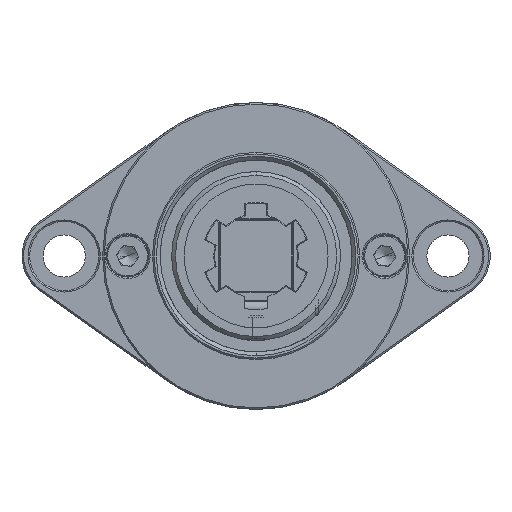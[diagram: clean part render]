
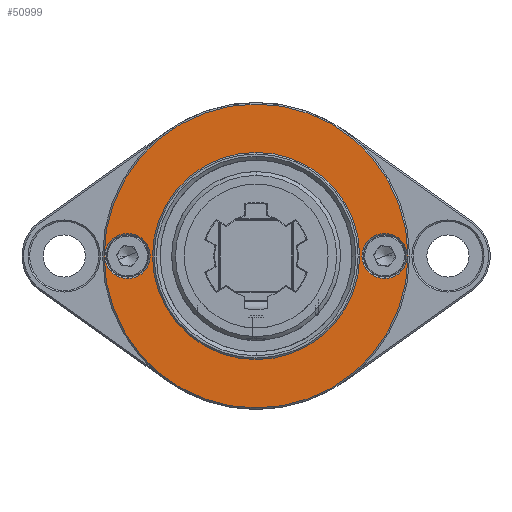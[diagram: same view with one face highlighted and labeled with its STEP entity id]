
A CAD part, front view. The second image highlights one B-rep face of the part: STEP entity #50999.
In plain terms, the highlighted planar face has unit normal (0, -1, 0).
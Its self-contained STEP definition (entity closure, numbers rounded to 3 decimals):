
#1436 = CARTESIAN_POINT ( 'NONE',  ( 0., -455.185, 57.652 ) ) ;
#2019 = VERTEX_POINT ( 'NONE', #4582 ) ;
#3446 = DIRECTION ( 'NONE',  ( 0., 0., 1. ) ) ;
#4144 = DIRECTION ( 'NONE',  ( 0., -1., 0. ) ) ;
#4455 = CARTESIAN_POINT ( 'NONE',  ( 16.75, -455.185, 71.152 ) ) ;
#4488 = DIRECTION ( 'NONE',  ( 0., 0., 1. ) ) ;
#4519 = CARTESIAN_POINT ( 'NONE',  ( 16.75, -455.185, 71.152 ) ) ;
#4582 = CARTESIAN_POINT ( 'NONE',  ( 0., -455.185, 90.952 ) ) ;
#5438 = CIRCLE ( 'NONE', #15553, 13.5 ) ;
#5451 = ORIENTED_EDGE ( 'NONE', *, *, #13354, .T. ) ;
#6465 = AXIS2_PLACEMENT_3D ( 'NONE', #31706, #16635, #4488 ) ;
#6834 = VERTEX_POINT ( 'NONE', #26416 ) ;
#8087 = AXIS2_PLACEMENT_3D ( 'NONE', #4455, #28379, #12111 ) ;
#8868 = DIRECTION ( 'NONE',  ( 0., 0., 1. ) ) ;
#9957 = FACE_BOUND ( 'NONE', #19332, .T. ) ;
#10010 = EDGE_CURVE ( 'NONE', #6834, #24139, #44836, .T. ) ;
#10215 = CIRCLE ( 'NONE', #38325, 19.8 ) ;
#11664 = DIRECTION ( 'NONE',  ( 0., 1., 0. ) ) ;
#12111 = DIRECTION ( 'NONE',  ( 0., 0., 1. ) ) ;
#12493 = CARTESIAN_POINT ( 'NONE',  ( 0., -455.185, 84.652 ) ) ;
#13354 = EDGE_CURVE ( 'NONE', #2019, #31863, #10215, .T. ) ;
#13685 = FACE_OUTER_BOUND ( 'NONE', #27711, .T. ) ;
#13836 = ORIENTED_EDGE ( 'NONE', *, *, #46820, .T. ) ;
#15553 = AXIS2_PLACEMENT_3D ( 'NONE', #50943, #23110, #3446 ) ;
#16168 = CARTESIAN_POINT ( 'NONE',  ( -16.75, -455.185, 71.152 ) ) ;
#16490 = DIRECTION ( 'NONE',  ( 0., 0., 1. ) ) ;
#16635 = DIRECTION ( 'NONE',  ( 0., 1., 0. ) ) ;
#17105 = VERTEX_POINT ( 'NONE', #42816 ) ;
#17565 = CIRCLE ( 'NONE', #34189, 2.95 ) ;
#19332 = EDGE_LOOP ( 'NONE', ( #41330, #39339 ) ) ;
#20800 = CIRCLE ( 'NONE', #6465, 2.95 ) ;
#21006 = DIRECTION ( 'NONE',  ( 0., 1., 0. ) ) ;
#21007 = EDGE_CURVE ( 'NONE', #44304, #17105, #20800, .T. ) ;
#23110 = DIRECTION ( 'NONE',  ( 0., 1., 0. ) ) ;
#23205 = DIRECTION ( 'NONE',  ( 0., 1., 0. ) ) ;
#23554 = EDGE_CURVE ( 'NONE', #17105, #44304, #46814, .T. ) ;
#23775 = DIRECTION ( 'NONE',  ( 0., 0., 1. ) ) ;
#24139 = VERTEX_POINT ( 'NONE', #39028 ) ;
#24653 = DIRECTION ( 'NONE',  ( 0., -1., 0. ) ) ;
#24863 = AXIS2_PLACEMENT_3D ( 'NONE', #26205, #49937, #30672 ) ;
#26205 = CARTESIAN_POINT ( 'NONE',  ( 0., -455.185, 51.152 ) ) ;
#26416 = CARTESIAN_POINT ( 'NONE',  ( 19.7, -455.185, 71.152 ) ) ;
#26653 = ORIENTED_EDGE ( 'NONE', *, *, #44139, .T. ) ;
#27137 = DIRECTION ( 'NONE',  ( 0., 0., 1. ) ) ;
#27711 = EDGE_LOOP ( 'NONE', ( #5451, #26653 ) ) ;
#27902 = CARTESIAN_POINT ( 'NONE',  ( 0., -455.185, 71.152 ) ) ;
#28379 = DIRECTION ( 'NONE',  ( 0., 1., 0. ) ) ;
#28579 = AXIS2_PLACEMENT_3D ( 'NONE', #47064, #23205, #27137 ) ;
#28803 = CARTESIAN_POINT ( 'NONE',  ( 0., -455.185, 71.152 ) ) ;
#30006 = EDGE_CURVE ( 'NONE', #38598, #43470, #5438, .T. ) ;
#30672 = DIRECTION ( 'NONE',  ( 0., 0., 1. ) ) ;
#31706 = CARTESIAN_POINT ( 'NONE',  ( -16.75, -455.185, 71.152 ) ) ;
#31863 = VERTEX_POINT ( 'NONE', #46756 ) ;
#32800 = EDGE_LOOP ( 'NONE', ( #13836, #33905 ) ) ;
#33095 = ORIENTED_EDGE ( 'NONE', *, *, #23554, .T. ) ;
#33905 = ORIENTED_EDGE ( 'NONE', *, *, #10010, .T. ) ;
#34189 = AXIS2_PLACEMENT_3D ( 'NONE', #4519, #21006, #16490 ) ;
#34840 = ORIENTED_EDGE ( 'NONE', *, *, #21007, .T. ) ;
#37267 = AXIS2_PLACEMENT_3D ( 'NONE', #27902, #4144, #23775 ) ;
#37902 = CIRCLE ( 'NONE', #37267, 19.8 ) ;
#38325 = AXIS2_PLACEMENT_3D ( 'NONE', #28803, #24653, #8868 ) ;
#38598 = VERTEX_POINT ( 'NONE', #1436 ) ;
#39028 = CARTESIAN_POINT ( 'NONE',  ( 13.8, -455.185, 71.152 ) ) ;
#39339 = ORIENTED_EDGE ( 'NONE', *, *, #30006, .T. ) ;
#41330 = ORIENTED_EDGE ( 'NONE', *, *, #46534, .T. ) ;
#42816 = CARTESIAN_POINT ( 'NONE',  ( -13.8, -455.185, 71.152 ) ) ;
#43470 = VERTEX_POINT ( 'NONE', #12493 ) ;
#43929 = DIRECTION ( 'NONE',  ( 0., 0., 1. ) ) ;
#44100 = FACE_BOUND ( 'NONE', #32800, .T. ) ;
#44139 = EDGE_CURVE ( 'NONE', #31863, #2019, #37902, .T. ) ;
#44189 = AXIS2_PLACEMENT_3D ( 'NONE', #16168, #11664, #43929 ) ;
#44304 = VERTEX_POINT ( 'NONE', #48484 ) ;
#44836 = CIRCLE ( 'NONE', #8087, 2.95 ) ;
#45329 = FACE_BOUND ( 'NONE', #45919, .T. ) ;
#45919 = EDGE_LOOP ( 'NONE', ( #34840, #33095 ) ) ;
#46145 = CIRCLE ( 'NONE', #28579, 13.5 ) ;
#46534 = EDGE_CURVE ( 'NONE', #43470, #38598, #46145, .T. ) ;
#46756 = CARTESIAN_POINT ( 'NONE',  ( 0., -455.185, 51.352 ) ) ;
#46814 = CIRCLE ( 'NONE', #44189, 2.95 ) ;
#46820 = EDGE_CURVE ( 'NONE', #24139, #6834, #17565, .T. ) ;
#47064 = CARTESIAN_POINT ( 'NONE',  ( 0., -455.185, 71.152 ) ) ;
#48484 = CARTESIAN_POINT ( 'NONE',  ( -19.7, -455.185, 71.152 ) ) ;
#49937 = DIRECTION ( 'NONE',  ( 0., 1., 0. ) ) ;
#50617 = PLANE ( 'NONE',  #24863 ) ;
#50943 = CARTESIAN_POINT ( 'NONE',  ( 0., -455.185, 71.152 ) ) ;
#50999 = ADVANCED_FACE ( 'NONE', ( #45329, #44100, #13685, #9957 ), #50617, .F. ) ;
